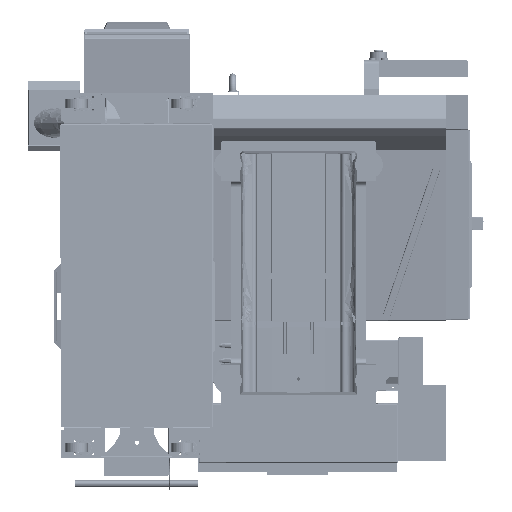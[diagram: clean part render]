
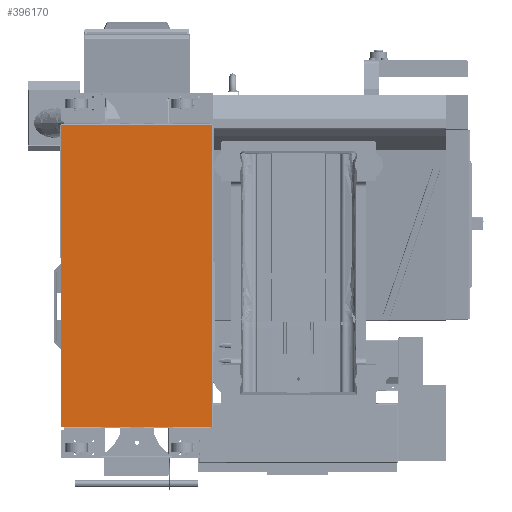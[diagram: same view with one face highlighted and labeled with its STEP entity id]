
A CAD part, front view. The second image highlights one B-rep face of the part: STEP entity #396170.
In plain terms, the highlighted planar face has unit normal (0, -1, 0).
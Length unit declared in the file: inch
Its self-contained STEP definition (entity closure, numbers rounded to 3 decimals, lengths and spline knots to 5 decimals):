
#19405 = CARTESIAN_POINT ( 'NONE',  ( 27.30086, -0.0747, 13.6513 ) ) ;
#28721 = LINE ( 'NONE', #19405, #353810 ) ;
#37802 = ORIENTED_EDGE ( 'NONE', *, *, #82968, .T. ) ;
#53531 = AXIS2_PLACEMENT_3D ( 'NONE', #809273, #531149, #601824 ) ;
#82968 = EDGE_CURVE ( 'NONE', #867252, #583930, #276210, .T. ) ;
#84310 = CARTESIAN_POINT ( 'NONE',  ( 27.291, -0.0747, -13.66116 ) ) ;
#88652 = ORIENTED_EDGE ( 'NONE', *, *, #395784, .T. ) ;
#97212 = VERTEX_POINT ( 'NONE', #359708 ) ;
#150319 = DIRECTION ( 'NONE',  ( 0., 0., 1. ) ) ;
#195970 = DIRECTION ( 'NONE',  ( 1., 0., 0. ) ) ;
#198347 = CARTESIAN_POINT ( 'NONE',  ( -27.291, -0.0747, 13.6513 ) ) ;
#234874 = FACE_OUTER_BOUND ( 'NONE', #817724, .T. ) ;
#276210 = LINE ( 'NONE', #855294, #853306 ) ;
#353810 = VECTOR ( 'NONE', #377176, 39.37008 ) ;
#359708 = CARTESIAN_POINT ( 'NONE',  ( 27.291, -0.0747, -13.6513 ) ) ;
#377176 = DIRECTION ( 'NONE',  ( -1., 0., 0. ) ) ;
#395784 = EDGE_CURVE ( 'NONE', #809022, #867252, #28721, .T. ) ;
#396170 = ADVANCED_FACE ( 'NONE', ( #234874 ), #521825, .T. ) ;
#432376 = CARTESIAN_POINT ( 'NONE',  ( 27.291, -0.0747, 13.6513 ) ) ;
#482952 = CARTESIAN_POINT ( 'NONE',  ( -27.30086, -0.0747, -13.6513 ) ) ;
#498512 = LINE ( 'NONE', #84310, #526140 ) ;
#521825 = PLANE ( 'NONE',  #53531 ) ;
#522816 = ORIENTED_EDGE ( 'NONE', *, *, #642038, .T. ) ;
#526140 = VECTOR ( 'NONE', #150319, 39.37008 ) ;
#531149 = DIRECTION ( 'NONE',  ( 0., -1., 0. ) ) ;
#563316 = DIRECTION ( 'NONE',  ( 0., 0., -1. ) ) ;
#583930 = VERTEX_POINT ( 'NONE', #620297 ) ;
#601824 = DIRECTION ( 'NONE',  ( 0., 0., -1. ) ) ;
#620297 = CARTESIAN_POINT ( 'NONE',  ( -27.291, -0.0747, -13.6513 ) ) ;
#627967 = EDGE_CURVE ( 'NONE', #583930, #97212, #836248, .T. ) ;
#642038 = EDGE_CURVE ( 'NONE', #97212, #809022, #498512, .T. ) ;
#773586 = ORIENTED_EDGE ( 'NONE', *, *, #627967, .T. ) ;
#809022 = VERTEX_POINT ( 'NONE', #432376 ) ;
#809273 = CARTESIAN_POINT ( 'NONE',  ( 0., -0.0747, 0. ) ) ;
#817724 = EDGE_LOOP ( 'NONE', ( #37802, #773586, #522816, #88652 ) ) ;
#836248 = LINE ( 'NONE', #482952, #856289 ) ;
#853306 = VECTOR ( 'NONE', #563316, 39.37008 ) ;
#855294 = CARTESIAN_POINT ( 'NONE',  ( -27.291, -0.0747, 13.66116 ) ) ;
#856289 = VECTOR ( 'NONE', #195970, 39.37008 ) ;
#867252 = VERTEX_POINT ( 'NONE', #198347 ) ;
